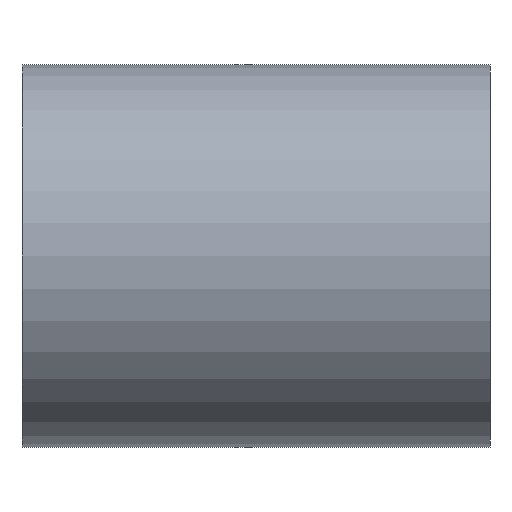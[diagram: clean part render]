
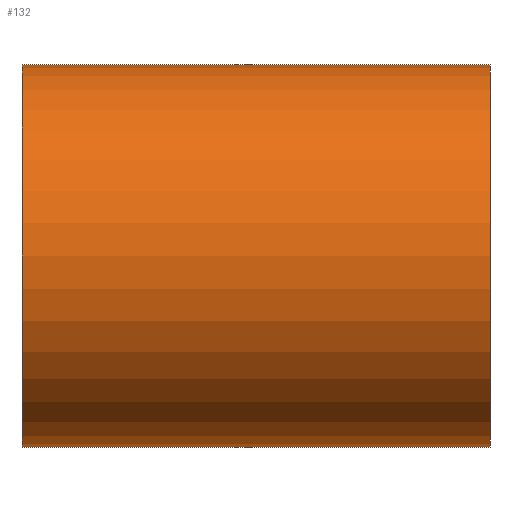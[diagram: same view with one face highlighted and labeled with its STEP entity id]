
A CAD part, front view. The second image highlights one B-rep face of the part: STEP entity #132.
In plain terms, the highlighted cylindrical face has radius 435 mm (diameter 870 mm), a partial arc.
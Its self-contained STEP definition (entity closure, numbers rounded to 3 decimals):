
#132=ADVANCED_FACE('',(#260),#261,.T.);
#260=FACE_OUTER_BOUND('',#415,.T.);
#261=CYLINDRICAL_SURFACE('',#416,435.0);
#415=EDGE_LOOP('',(#739,#740,#741,#742));
#416=AXIS2_PLACEMENT_3D('',#743,#744,#745);
#739=ORIENTED_EDGE('',*,*,#827,.T.);
#740=ORIENTED_EDGE('',*,*,#968,.F.);
#741=ORIENTED_EDGE('',*,*,#829,.T.);
#742=ORIENTED_EDGE('',*,*,#969,.F.);
#743=CARTESIAN_POINT('',(0.0,0.0,0.0));
#744=DIRECTION('',(1.0,0.0,0.0));
#745=DIRECTION('',(0.0,0.0,-1.0));
#827=EDGE_CURVE('',#973,#974,#975,.T.);
#829=EDGE_CURVE('',#978,#976,#979,.T.);
#968=EDGE_CURVE('',#978,#974,#1186,.T.);
#969=EDGE_CURVE('',#973,#976,#1187,.T.);
#973=VERTEX_POINT('',#1191);
#974=VERTEX_POINT('',#1192);
#975=LINE('',#1193,#1194);
#976=VERTEX_POINT('',#1195);
#978=VERTEX_POINT('',#1197);
#979=LINE('',#1198,#1199);
#1186=CIRCLE('',#1440,435.0);
#1187=CIRCLE('',#1441,435.0);
#1191=CARTESIAN_POINT('',(-532.5,0.0,-435.0));
#1192=CARTESIAN_POINT('',(532.5,0.0,-435.0));
#1193=CARTESIAN_POINT('',(0.0,0.,-435.0));
#1194=VECTOR('',#1444,1.0);
#1195=CARTESIAN_POINT('',(-532.5,0.,435.0));
#1197=CARTESIAN_POINT('',(532.5,0.,435.0));
#1198=CARTESIAN_POINT('',(0.0,0.,435.0));
#1199=VECTOR('',#1448,1.0);
#1440=AXIS2_PLACEMENT_3D('',#1690,#1691,#1692);
#1441=AXIS2_PLACEMENT_3D('',#1693,#1694,#1695);
#1444=DIRECTION('',(1.0,0.0,0.0));
#1448=DIRECTION('',(-1.0,-0.0,-0.0));
#1690=CARTESIAN_POINT('',(532.5,0.0,0.0));
#1691=DIRECTION('',(1.0,0.0,0.0));
#1692=DIRECTION('',(0.0,0.0,-1.0));
#1693=CARTESIAN_POINT('',(-532.5,0.0,0.0));
#1694=DIRECTION('',(-1.0,0.0,0.0));
#1695=DIRECTION('',(0.0,0.0,-1.0));
